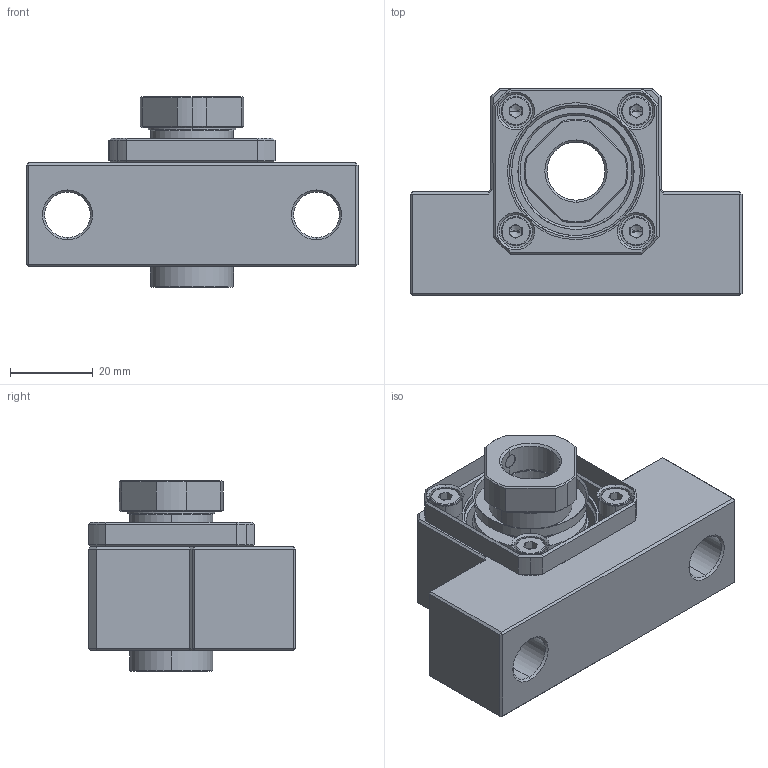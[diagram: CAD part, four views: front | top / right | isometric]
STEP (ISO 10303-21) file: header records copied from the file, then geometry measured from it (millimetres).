
FILE_DESCRIPTION (( 'STEP AP203' ), '1' );
FILE_NAME ('ESGK-15_203.STEP', '2013-02-26T01:51:37', ( '' ), ( '' ), 'SwSTEP 2.0', 'SolidWorks 2012', '' );
FILE_SCHEMA (( 'CONFIG_CONTROL_DESIGN' ));
Length unit declared in the file: millimetre
Products named in the file (1): ESGK-15_203
Bounding box: 80 x 50 x 46 mm (x, y, z)
Volume: 75344 mm3; surface area: 22073.3 mm2
Topology: 1 solids, 17 shells, 408 faces, 887 edges, 507 vertices
Faces by surface type: plane 169, cylinder 103, cone 96, torus 40
Entity records: 11068 total; most frequent: DIRECTION 2039, CARTESIAN_POINT 1982, ORIENTED_EDGE 1738, EDGE_CURVE 869, AXIS2_PLACEMENT_3D 800, VERTEX_POINT 507, EDGE_LOOP 448, VECTOR 439
